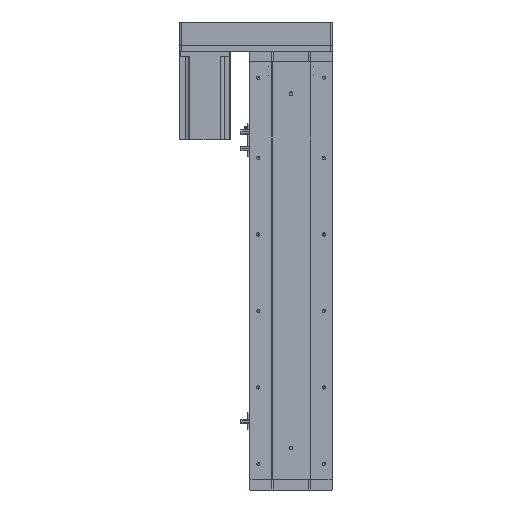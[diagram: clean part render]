
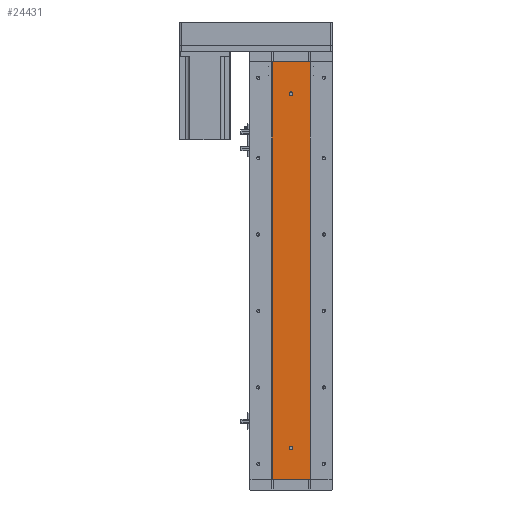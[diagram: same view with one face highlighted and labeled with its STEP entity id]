
A CAD part, left-side view. The second image highlights one B-rep face of the part: STEP entity #24431.
In plain terms, the highlighted planar face has unit normal (-1, 0, 0).
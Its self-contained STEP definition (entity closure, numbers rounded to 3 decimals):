
#202 = VERTEX_POINT ( 'NONE', #36435 ) ;
#322 = VERTEX_POINT ( 'NONE', #37198 ) ;
#599 = ORIENTED_EDGE ( 'NONE', *, *, #34354, .F. ) ;
#1280 = CARTESIAN_POINT ( 'NONE',  ( -24.994, 29.785, 656. ) ) ;
#1628 = EDGE_CURVE ( 'NONE', #10496, #322, #28065, .T. ) ;
#3996 = VERTEX_POINT ( 'NONE', #5101 ) ;
#4178 = CARTESIAN_POINT ( 'NONE',  ( -24.994, -29.785, 656. ) ) ;
#5101 = CARTESIAN_POINT ( 'NONE',  ( -24.994, 29.785, 0. ) ) ;
#6579 = CARTESIAN_POINT ( 'NONE',  ( -24.994, 0., 50. ) ) ;
#6975 = VECTOR ( 'NONE', #17411, 1000. ) ;
#8574 = LINE ( 'NONE', #13272, #25062 ) ;
#9050 = AXIS2_PLACEMENT_3D ( 'NONE', #10116, #34646, #13635 ) ;
#9412 = EDGE_CURVE ( 'NONE', #202, #24721, #9451, .T. ) ;
#9451 = CIRCLE ( 'NONE', #13913, 3. ) ;
#9685 = VERTEX_POINT ( 'NONE', #42333 ) ;
#10116 = CARTESIAN_POINT ( 'NONE',  ( -24.994, 0., 50. ) ) ;
#10139 = DIRECTION ( 'NONE',  ( 0., 0., 1. ) ) ;
#10496 = VERTEX_POINT ( 'NONE', #22624 ) ;
#10873 = CARTESIAN_POINT ( 'NONE',  ( -24.994, 0., 606. ) ) ;
#13272 = CARTESIAN_POINT ( 'NONE',  ( -24.994, -29.785, 656. ) ) ;
#13635 = DIRECTION ( 'NONE',  ( 0., 0., 1. ) ) ;
#13913 = AXIS2_PLACEMENT_3D ( 'NONE', #6579, #31181, #10139 ) ;
#14387 = DIRECTION ( 'NONE',  ( 0., 0., 1. ) ) ;
#14544 = PLANE ( 'NONE',  #29437 ) ;
#15318 = ORIENTED_EDGE ( 'NONE', *, *, #28335, .F. ) ;
#15417 = FACE_BOUND ( 'NONE', #20100, .T. ) ;
#15981 = VECTOR ( 'NONE', #25829, 1000. ) ;
#16458 = DIRECTION ( 'NONE',  ( -1., 0., 0. ) ) ;
#16477 = EDGE_LOOP ( 'NONE', ( #38441, #41318 ) ) ;
#17132 = EDGE_CURVE ( 'NONE', #24721, #202, #23595, .T. ) ;
#17411 = DIRECTION ( 'NONE',  ( 0., -1., 0. ) ) ;
#18128 = LINE ( 'NONE', #22470, #36759 ) ;
#18253 = CARTESIAN_POINT ( 'NONE',  ( -24.994, 29.785, 656. ) ) ;
#18612 = VERTEX_POINT ( 'NONE', #38040 ) ;
#20100 = EDGE_LOOP ( 'NONE', ( #39693, #599 ) ) ;
#21788 = DIRECTION ( 'NONE',  ( 0., 0., -1. ) ) ;
#22470 = CARTESIAN_POINT ( 'NONE',  ( -24.994, 29.785, 656. ) ) ;
#22624 = CARTESIAN_POINT ( 'NONE',  ( -24.994, 0., 609. ) ) ;
#22888 = ORIENTED_EDGE ( 'NONE', *, *, #40261, .T. ) ;
#23595 = CIRCLE ( 'NONE', #9050, 3. ) ;
#23706 = FACE_BOUND ( 'NONE', #16477, .T. ) ;
#24431 = ADVANCED_FACE ( 'NONE', ( #15417, #23706, #24775 ), #14544, .F. ) ;
#24721 = VERTEX_POINT ( 'NONE', #33850 ) ;
#24775 = FACE_OUTER_BOUND ( 'NONE', #42988, .T. ) ;
#25062 = VECTOR ( 'NONE', #41348, 1000. ) ;
#25829 = DIRECTION ( 'NONE',  ( 0., -1., 0. ) ) ;
#27058 = AXIS2_PLACEMENT_3D ( 'NONE', #37478, #16458, #41016 ) ;
#28065 = CIRCLE ( 'NONE', #43804, 3. ) ;
#28335 = EDGE_CURVE ( 'NONE', #38754, #9685, #8574, .T. ) ;
#29437 = AXIS2_PLACEMENT_3D ( 'NONE', #18253, #42786, #21788 ) ;
#31181 = DIRECTION ( 'NONE',  ( -1., 0., 0. ) ) ;
#32884 = CIRCLE ( 'NONE', #27058, 3. ) ;
#33850 = CARTESIAN_POINT ( 'NONE',  ( -24.994, 0., 47. ) ) ;
#34354 = EDGE_CURVE ( 'NONE', #322, #10496, #32884, .T. ) ;
#34646 = DIRECTION ( 'NONE',  ( -1., 0., 0. ) ) ;
#34665 = LINE ( 'NONE', #1280, #15981 ) ;
#34983 = LINE ( 'NONE', #38418, #6975 ) ;
#35383 = DIRECTION ( 'NONE',  ( -1., 0., 0. ) ) ;
#36173 = ORIENTED_EDGE ( 'NONE', *, *, #44270, .F. ) ;
#36435 = CARTESIAN_POINT ( 'NONE',  ( -24.994, 0., 53. ) ) ;
#36759 = VECTOR ( 'NONE', #39928, 1000. ) ;
#37198 = CARTESIAN_POINT ( 'NONE',  ( -24.994, 0., 603. ) ) ;
#37478 = CARTESIAN_POINT ( 'NONE',  ( -24.994, 0., 606. ) ) ;
#38040 = CARTESIAN_POINT ( 'NONE',  ( -24.994, 29.785, 656. ) ) ;
#38418 = CARTESIAN_POINT ( 'NONE',  ( -24.994, 29.785, 0. ) ) ;
#38441 = ORIENTED_EDGE ( 'NONE', *, *, #9412, .F. ) ;
#38754 = VERTEX_POINT ( 'NONE', #4178 ) ;
#39693 = ORIENTED_EDGE ( 'NONE', *, *, #1628, .F. ) ;
#39928 = DIRECTION ( 'NONE',  ( 0., 0., -1. ) ) ;
#40261 = EDGE_CURVE ( 'NONE', #3996, #9685, #34983, .T. ) ;
#41016 = DIRECTION ( 'NONE',  ( 0., 0., 1. ) ) ;
#41121 = ORIENTED_EDGE ( 'NONE', *, *, #44805, .T. ) ;
#41318 = ORIENTED_EDGE ( 'NONE', *, *, #17132, .F. ) ;
#41348 = DIRECTION ( 'NONE',  ( 0., 0., -1. ) ) ;
#42333 = CARTESIAN_POINT ( 'NONE',  ( -24.994, -29.785, 0. ) ) ;
#42786 = DIRECTION ( 'NONE',  ( 1., 0., 0. ) ) ;
#42988 = EDGE_LOOP ( 'NONE', ( #22888, #15318, #36173, #41121 ) ) ;
#43804 = AXIS2_PLACEMENT_3D ( 'NONE', #10873, #35383, #14387 ) ;
#44270 = EDGE_CURVE ( 'NONE', #18612, #38754, #34665, .T. ) ;
#44805 = EDGE_CURVE ( 'NONE', #18612, #3996, #18128, .T. ) ;
